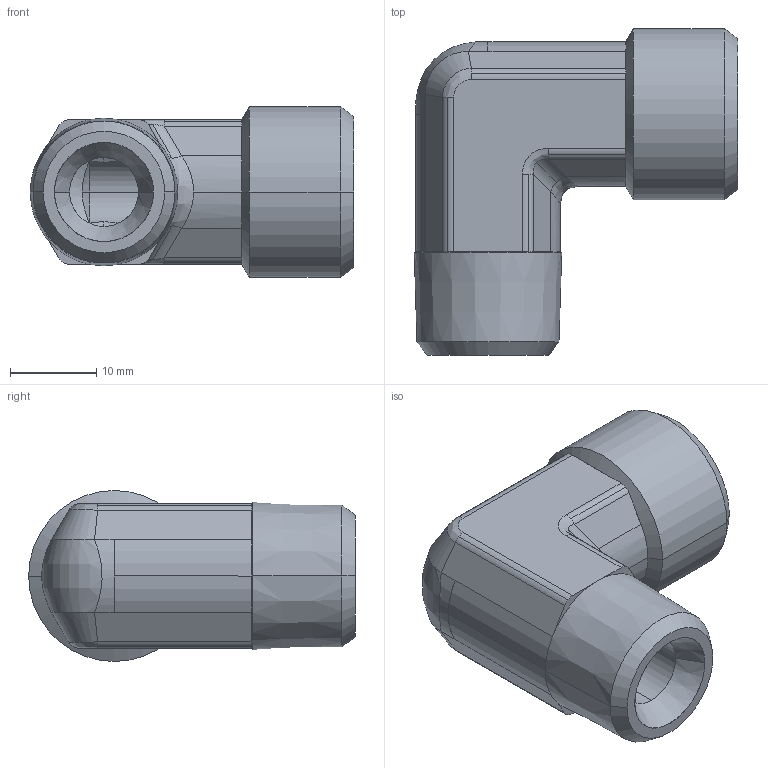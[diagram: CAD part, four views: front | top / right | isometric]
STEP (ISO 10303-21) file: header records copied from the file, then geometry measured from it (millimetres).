
FILE_DESCRIPTION((''),'2;1');
FILE_NAME('102017.stp','2007-10-30T16:27:55',(''),(''),'AutoCAD STEP 2000i','AutoCAD 2000i',', , ');
FILE_SCHEMA(('CONFIG_CONTROL_DESIGN'));
Length unit declared in the file: millimetre
Products named in the file (2): 102017.0; 3090#0
Assembly tree (1 placements, depth 2):
  102017.0
    3090#0
Bounding box: 37.56 x 37.92 x 19.85 mm (x, y, z)
Volume: 10477.4 mm3; surface area: 5051.9 mm2
Topology: 1 solids, 1 shells, 104 faces, 238 edges, 137 vertices
Faces by surface type: cylinder 42, plane 25, cone 23, bspline 14
Entity records: 3778 total; most frequent: CARTESIAN_POINT 1323, DIRECTION 529, ORIENTED_EDGE 476, EDGE_CURVE 238, AXIS2_PLACEMENT_3D 219, VERTEX_POINT 137, CIRCLE 109, EDGE_LOOP 107
